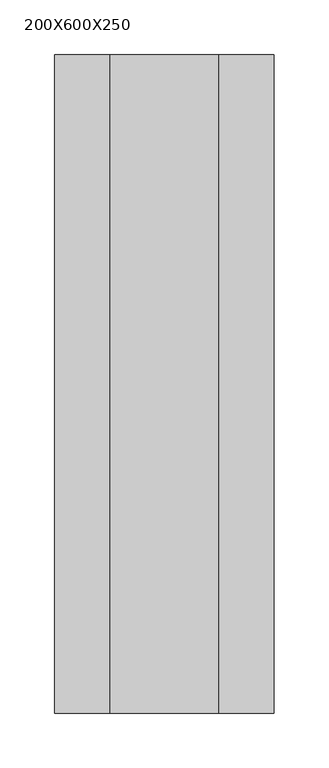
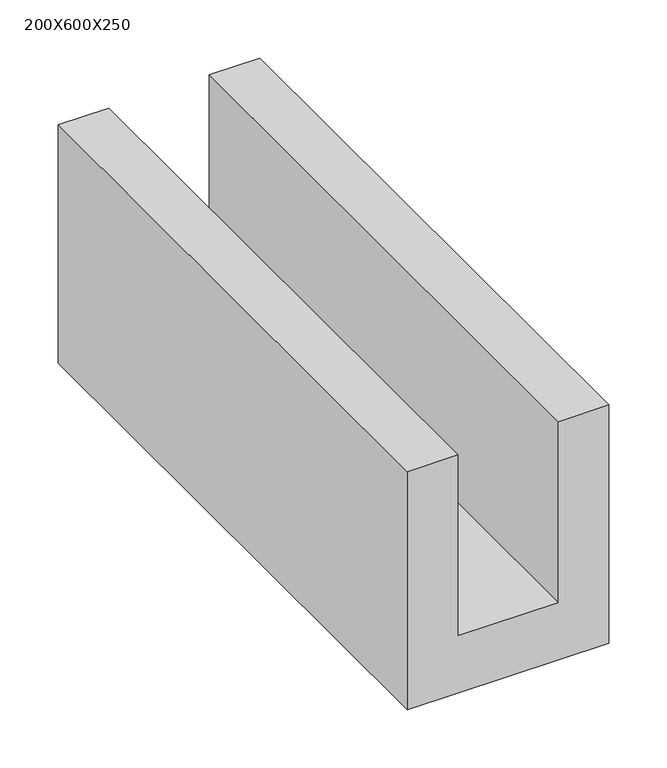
"""IFC4 building model written with IfcOpenShell, lengths in millimetres: plate geometry, GASBETON Evolution Canalette : 200X600X250."""

from ifc_helpers import new_model, si_unit, frame, origin, place, context, project, spatial, polyline, outline, extrude, source, transform, mapped, element, save


def plate_200x600x250_50b6f91e(model_context):
    return source(origin(), model_context, "Body", "SweptSolid", [
        extrude(outline(polyline([(0.0, -100.0), (0.0, 100.0), (250.0, 100.0), (250.0, 50.0), (60.0, 50.0), (60.0, -50.0), (250.0, -50.0), (250.0, -100.0), (0.0, -100.0)])), frame((0.0, -300.0, 0.0), z_axis=(0.0, 1.0, 0.0), x_axis=(0.0, 0.0, 1.0)), (0.0, 0.0, 1.0), 600.0),
    ])


if __name__ == "__main__":
    model = new_model("IFC4")
    model_context = context("Model", 3, world=origin())
    ifc_project = project(units=[si_unit("LENGTHUNIT", "METRE", prefix="MILLI")], contexts=[model_context])
    site = spatial("IfcSite", under=ifc_project)
    building = spatial("IfcBuilding", under=site)
    placement = place(None, origin())
    plate_200x600x250_shape = plate_200x600x250_50b6f91e(model_context)
    element("IfcPlate", 1, ObjectType="GASBETON Evolution Canalette : 200X600X250", at=placement, inside=building, context=model_context, shape_type="MappedRepresentation", body=[
        mapped(plate_200x600x250_shape, transform((0.0, 0.0, 0.0), x_axis=(1.0, 0.0, 0.0), y_axis=(0.0, 1.0, 0.0), z_axis=(0.0, 0.0, 1.0))),
    ])
    save(model, "model.ifc")
